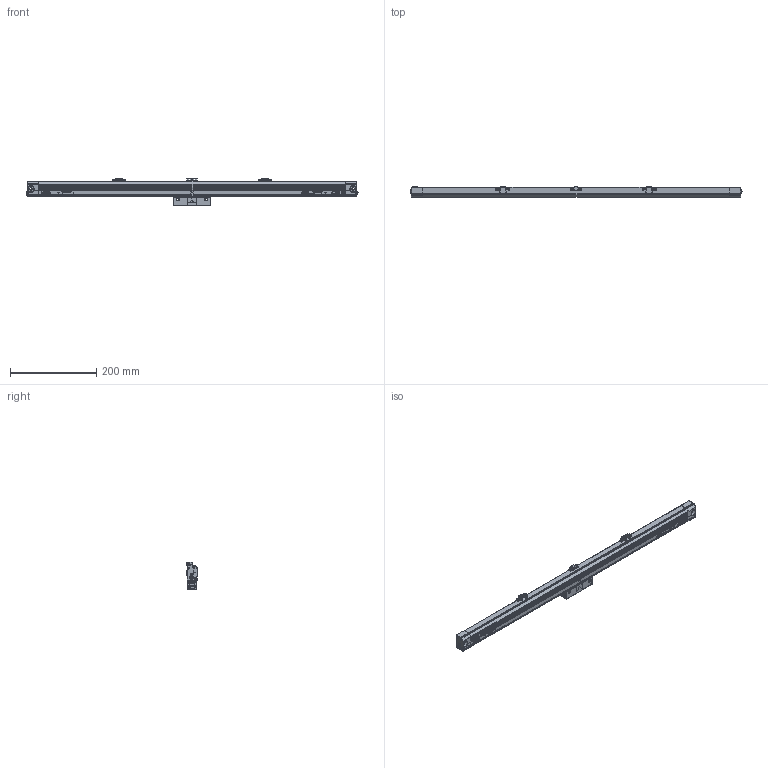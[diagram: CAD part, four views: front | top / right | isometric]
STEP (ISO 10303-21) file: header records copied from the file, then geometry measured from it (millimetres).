
FILE_DESCRIPTION(('Creo Elements/Direct Modeling STEP Export'),'2;1');
FILE_NAME('ABS AT1300-600H.stp','2018-02-22T17:41:53',(''),(''),'Creo Elements/Direct Modeling STEP processor for AP214 (Solid Model)','Creo Elements/Direct Modeling 18.1B 29-Sep-2012 (C) Parametric Technology GmbH','');
FILE_SCHEMA(('AUTOMOTIVE_DESIGN { 1 0 10303 214 1 1 1 1 }'));
Length unit declared in the file: millimetre
Products named in the file (3): Scale_600; Detector_head; AT1300-600H
Assembly tree (2 placements, depth 2):
  AT1300-600H
    Detector_head
    Scale_600
Bounding box: 771.9 x 24 x 64.5 mm (x, y, z)
Volume: 577943.1 mm3; surface area: 116392.5 mm2
Topology: 2 solids, 25 shells, 1732 faces, 4951 edges, 3417 vertices
Faces by surface type: plane 890, cylinder 594, torus 100, cone 72, bspline 46, sphere 30
Entity records: 66160 total; most frequent: CARTESIAN_POINT 20795, ORIENTED_EDGE 9798, DIRECTION 8721, EDGE_CURVE 4899, VERTEX_POINT 3417, VECTOR 2947, LINE 2947, AXIS2_PLACEMENT_3D 2887
